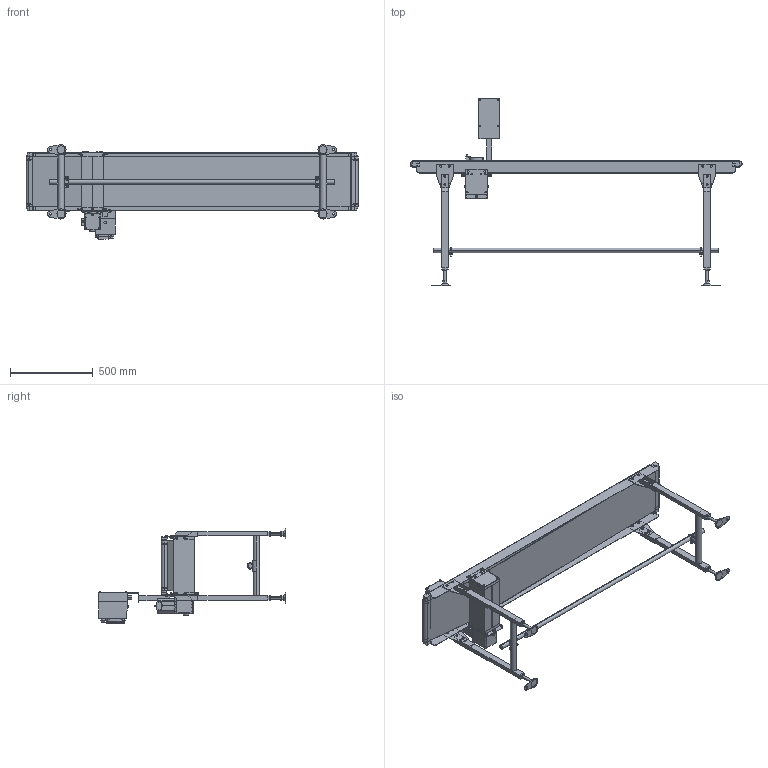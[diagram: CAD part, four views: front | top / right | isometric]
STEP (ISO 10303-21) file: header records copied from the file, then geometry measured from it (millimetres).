
FILE_DESCRIPTION (( 'STEP AP214' ), '1' );
FILE_NAME ('FSDHS-300-2000-R.STEP', '2023-04-20T23:37:24', ( '' ), ( '' ), 'SwSTEP 2.0', 'SolidWorks 2017', '' );
FILE_SCHEMA (( 'AUTOMOTIVE_DESIGN' ));
Length unit declared in the file: millimetre
Products named in the file (1): FSDHS-300-2000-R
Bounding box: 2001.4 x 1131 x 569.99 mm (x, y, z)
Volume: 20468093.9 mm3; surface area: 6387590.4 mm2
Topology: 48 solids, 54 shells, 2266 faces, 5572 edges, 3646 vertices
Faces by surface type: plane 1470, cylinder 733, cone 45, bspline 14, torus 4
Entity records: 94319 total; most frequent: CARTESIAN_POINT 13679, DIRECTION 11636, ORIENTED_EDGE 11124, EDGE_CURVE 5562, AXIS2_PLACEMENT_3D 3894, LINE 3848, VECTOR 3848, VERTEX_POINT 3646
